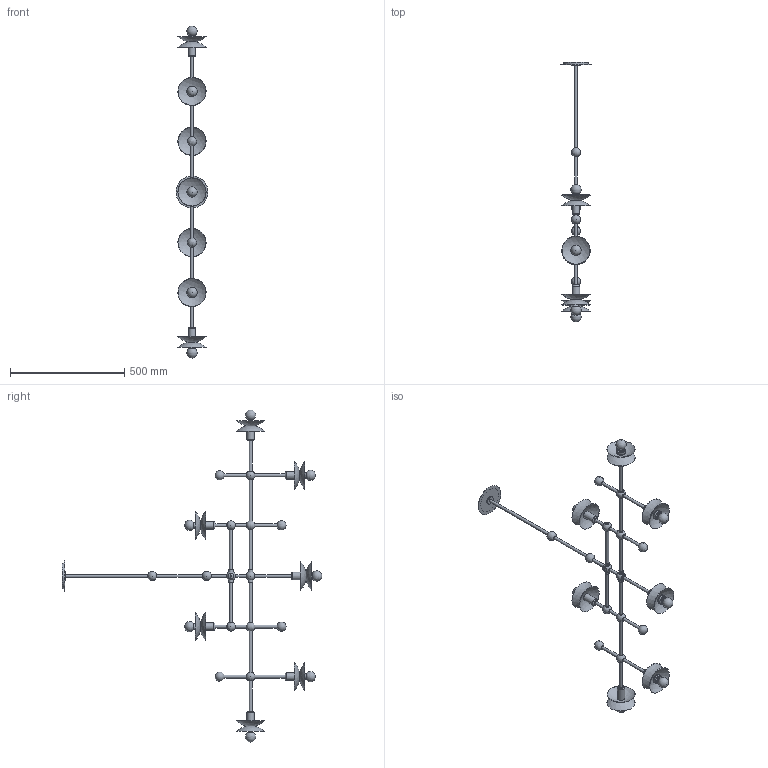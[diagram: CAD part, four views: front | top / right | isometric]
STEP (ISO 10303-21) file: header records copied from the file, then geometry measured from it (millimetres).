
FILE_DESCRIPTION(/* description */ (''),/* implementation_level */ '2;1');
FILE_NAME(/* name */ '260424_B_B772 Babylon Linear 7.stp',/* time_stamp */ '2026-04-24T09:11:25+02:00',/* author */ ('Dominik'),/* organization */ (''),/* preprocessor_version */ 'ST-DEVELOPER v20.1',/* originating_system */ 'Autodesk Inventor 2026',/* authorisation */ '');
FILE_SCHEMA (('AUTOMOTIVE_DESIGN { 1 0 10303 214 3 1 1 }'));
Length unit declared in the file: millimetre
Products named in the file (1): B772 jako część
Bounding box: 139.64 x 1136.49 x 1452.39 mm (x, y, z)
Volume: 2025036 mm3; surface area: 719864.5 mm2
Topology: 12 solids, 12 shells, 412 faces, 867 edges, 579 vertices
Faces by surface type: plane 146, cylinder 145, sphere 65, torus 28, cone 21, bspline 7
Full cylindrical faces by diameter (mm): 11.6 x5, 11.917 x5, 12 x4, 13 x23, 13.1 x2, 13.5 x23, 18 x4, 18.5 x4, 23.1 x7, 23.5 x7, 28 x7, 29 x14, 32 x7, 36 x1, 39.5 x14, 110 x1, 140 x1
Entity records: 13418 total; most frequent: CARTESIAN_POINT 3654, DIRECTION 2130, ORIENTED_EDGE 1676, AXIS2_PLACEMENT_3D 942, EDGE_CURVE 838, VERTEX_POINT 573, EDGE_LOOP 560, CIRCLE 536
